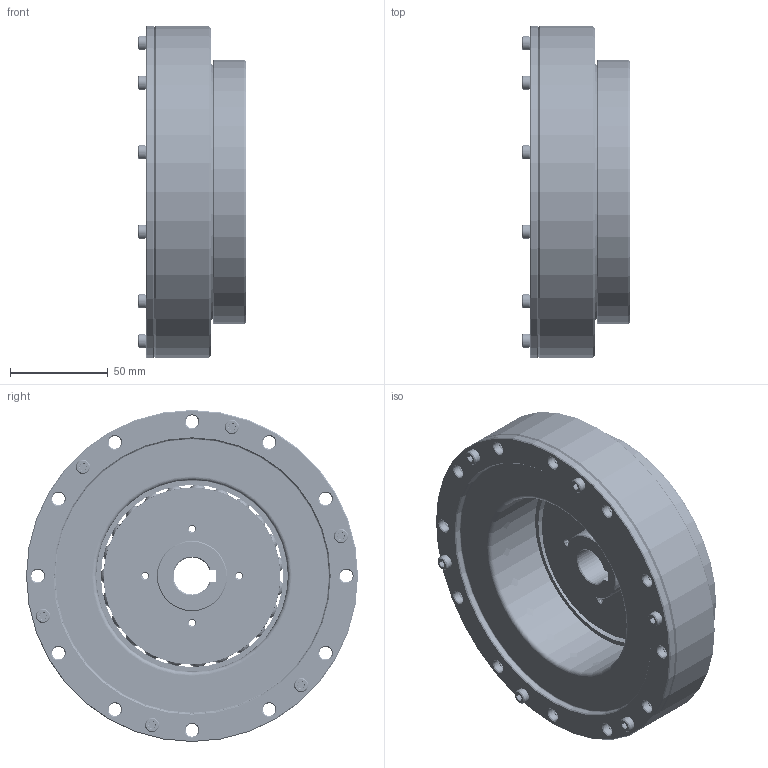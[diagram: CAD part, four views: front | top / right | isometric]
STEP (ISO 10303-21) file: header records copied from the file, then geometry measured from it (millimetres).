
FILE_DESCRIPTION(/* description */ (''),/* implementation_level */ '2;1');
FILE_NAME(/* name */ 'XBF40成品图.prt.stp',/* time_stamp */ '2022-07-23T10:40:42+08:00',/* author */ (''),/* organization */ (''),/* preprocessor_version */ 'ST-DEVELOPER v16',/* originating_system */ 'SIEMENS PLM Software NX 10.0',/* authorisation */ '');
FILE_SCHEMA (('CONFIG_CONTROL_DESIGN'));
Products named in the file (12): 40-柔性轴承保持架（日标）; M4X12; XBK40-2柔轮; XBS40-3-1凸轮; M5X18; XBK40-4-1-1销子; XBK40-1钢轮; XBK40-4-1内芯; G1321467; XBK40-4-2外圈; 40-柔性轴承（日标）_MODEL; XBF40成品图
Assembly tree (19 placements, depth 3):
  XBF40成品图
    XBK40-4-2外圈
    G1321467
    XBK40-4-1内芯
    XBK40-1钢轮
    XBK40-4-1-1销子
    M5X18  x4
    40-柔性轴承（日标）_MODEL
      40-柔性轴承保持架（日标）
    XBS40-3-1凸轮
    XBK40-2柔轮
    M4X12  x6
Bounding box: 55.2 x 170 x 170 mm (x, y, z)
Volume: 603097.3 mm3; surface area: 259624.6 mm2
Topology: 43 solids, 43 shells, 1035 faces, 2593 edges, 1678 vertices
Faces by surface type: plane 376, cylinder 265, cone 202, bspline 116, extrusion 43, sphere 23, torus 10
Full cylindrical faces by diameter (mm): 4.5 x7, 5 x52, 5.5 x4, 6.5 x40, 7.22 x6, 8 x1, 8.72 x4, 9 x4, 36 x1, 69 x1, 71.16 x1, 72 x1, 76 x1, 76.26 x2, 81.7 x1, 84 x1, 90.5 x1, 93.271 x2, 98.171 x2, 99 x1, 101.571 x1, 103 x1, 108 x2, 110.5 x1, 120 x1, 132 x2, 134 x2, 135 x1, 137 x1, 141 x1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
Entity records: 139023 total; most frequent: CARTESIAN_POINT 120974, ORIENTED_EDGE 3282, DIRECTION 2899, EDGE_CURVE 1641, VERTEX_POINT 1223, AXIS2_PLACEMENT_3D 1207, EDGE_LOOP 1205, ADVANCED_FACE 794
